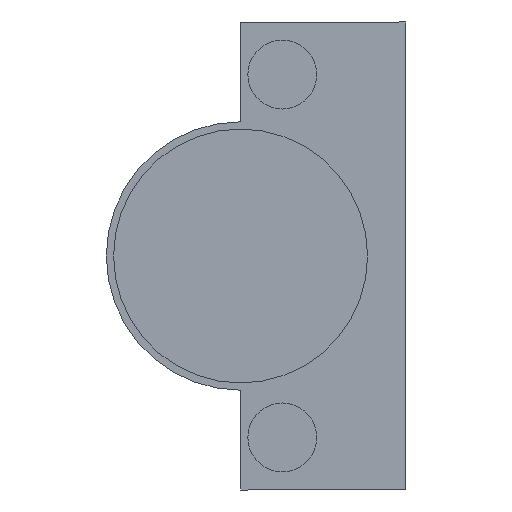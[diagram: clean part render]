
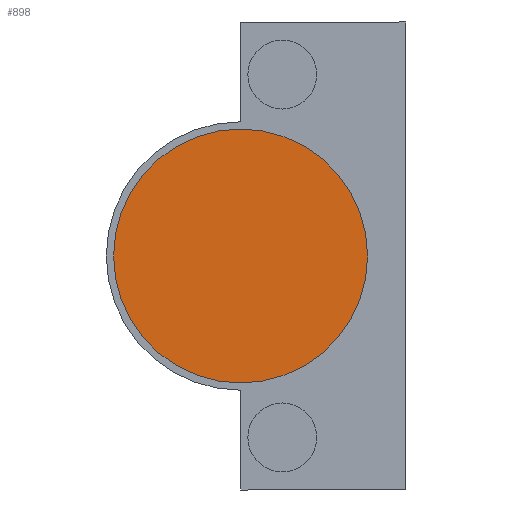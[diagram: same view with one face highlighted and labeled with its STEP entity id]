
A CAD part, front view. The second image highlights one B-rep face of the part: STEP entity #898.
In plain terms, the highlighted planar face has unit normal (0, -1, 0).
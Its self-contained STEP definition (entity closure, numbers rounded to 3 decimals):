
#43 = VERTEX_POINT ( 'NONE', #88 ) ;
#88 = CARTESIAN_POINT ( 'NONE',  ( -5.5, -12.6, 0. ) ) ;
#156 = ORIENTED_EDGE ( 'NONE', *, *, #1577, .T. ) ;
#157 = ORIENTED_EDGE ( 'NONE', *, *, #1700, .T. ) ;
#441 = EDGE_LOOP ( 'NONE', ( #156, #157 ) ) ;
#527 = FACE_OUTER_BOUND ( 'NONE', #441, .T. ) ;
#659 = CIRCLE ( 'NONE', #1650, 17.5 ) ;
#779 = CIRCLE ( 'NONE', #1742, 17.5 ) ;
#835 = VERTEX_POINT ( 'NONE', #937 ) ;
#898 = ADVANCED_FACE ( 'NONE', ( #527 ), #1131, .T. ) ;
#937 = CARTESIAN_POINT ( 'NONE',  ( 29.5, -12.6, 0. ) ) ;
#1131 = PLANE ( 'NONE',  #1642 ) ;
#1134 = CARTESIAN_POINT ( 'NONE',  ( 12., -12.6, 0. ) ) ;
#1143 = DIRECTION ( 'NONE',  ( 0., -1., 0. ) ) ;
#1144 = DIRECTION ( 'NONE',  ( 1., 0., 0. ) ) ;
#1310 = CARTESIAN_POINT ( 'NONE',  ( 12., -12.6, 0. ) ) ;
#1311 = DIRECTION ( 'NONE',  ( 0., -1., 0. ) ) ;
#1312 = DIRECTION ( 'NONE',  ( 1., 0., 0. ) ) ;
#1465 = CARTESIAN_POINT ( 'NONE',  ( 12., -12.6, 0. ) ) ;
#1467 = DIRECTION ( 'NONE',  ( 0., -1., 0. ) ) ;
#1468 = DIRECTION ( 'NONE',  ( 1., 0., 0. ) ) ;
#1577 = EDGE_CURVE ( 'NONE', #43, #835, #659, .T. ) ;
#1642 = AXIS2_PLACEMENT_3D ( 'NONE', #1134, #1143, #1144 ) ;
#1650 = AXIS2_PLACEMENT_3D ( 'NONE', #1310, #1311, #1312 ) ;
#1700 = EDGE_CURVE ( 'NONE', #835, #43, #779, .T. ) ;
#1742 = AXIS2_PLACEMENT_3D ( 'NONE', #1465, #1467, #1468 ) ;
